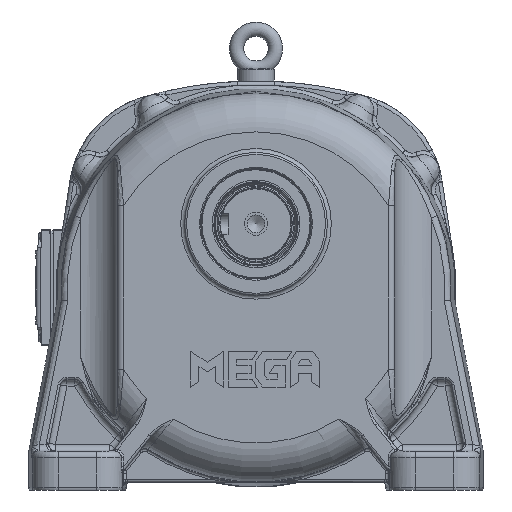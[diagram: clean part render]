
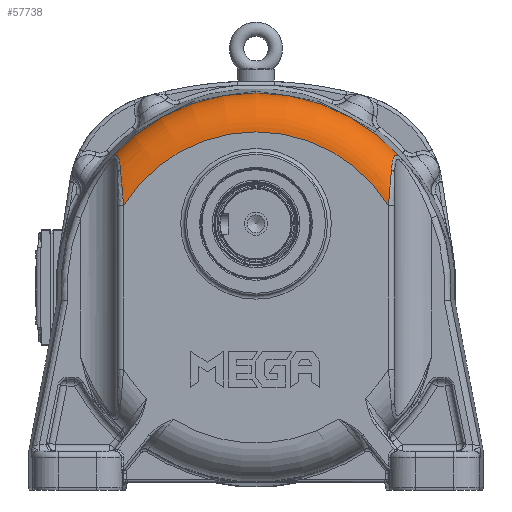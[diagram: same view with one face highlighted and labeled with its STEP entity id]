
A CAD part, front view. The second image highlights one B-rep face of the part: STEP entity #57738.
In plain terms, the highlighted toroidal (fillet/blend) face has major radius 119.862 mm and minor radius 30 mm.
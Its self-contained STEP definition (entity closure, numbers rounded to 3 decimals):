
#3223=B_SPLINE_CURVE_WITH_KNOTS('',3,(#108288,#108289,#108290,#108291,#108292),
 .UNSPECIFIED.,.F.,.F.,(4,1,4),(-2.599,-1.114,0.),
 .UNSPECIFIED.);
#3225=B_SPLINE_CURVE_WITH_KNOTS('',3,(#108346,#108347,#108348,#108349,#108350,
#108351,#108352,#108353,#108354),.UNSPECIFIED.,.F.,.F.,(4,1,1,1,1,1,4),
(-2.566,-2.199,-1.833,-1.466,
-1.1,-0.733,0.),.UNSPECIFIED.);
#3230=B_SPLINE_CURVE_WITH_KNOTS('',3,(#108436,#108437,#108438,#108439,#108440,
#108441,#108442,#108443,#108444),.UNSPECIFIED.,.F.,.F.,(4,1,1,1,1,1,4),
(0.,0.733,1.1,1.466,1.833,
2.199,2.566),.UNSPECIFIED.);
#3231=B_SPLINE_CURVE_WITH_KNOTS('',3,(#108445,#108446,#108447,#108448,#108449),
 .UNSPECIFIED.,.F.,.F.,(4,1,4),(-2.599,-1.114,0.),
 .UNSPECIFIED.);
#12643=FACE_OUTER_BOUND('',#16202,.T.);
#16202=EDGE_LOOP('',(#43228,#43229,#43230,#43231,#43232,#43233));
#19870=CIRCLE('',#62319,119.862);
#20249=CIRCLE('',#62971,149.849);
#24014=VERTEX_POINT('',#101098);
#24015=VERTEX_POINT('',#101100);
#24544=VERTEX_POINT('',#108286);
#24546=VERTEX_POINT('',#108344);
#24548=VERTEX_POINT('',#108433);
#24549=VERTEX_POINT('',#108435);
#30379=EDGE_CURVE('',#24015,#24014,#19870,.T.);
#31258=EDGE_CURVE('',#24544,#24014,#3223,.T.);
#31261=EDGE_CURVE('',#24546,#24544,#3225,.T.);
#31268=EDGE_CURVE('',#24546,#24548,#20249,.T.);
#31269=EDGE_CURVE('',#24549,#24548,#3230,.T.);
#31270=EDGE_CURVE('',#24015,#24549,#3231,.T.);
#43228=ORIENTED_EDGE('',*,*,#31258,.F.);
#43229=ORIENTED_EDGE('',*,*,#31261,.F.);
#43230=ORIENTED_EDGE('',*,*,#31268,.T.);
#43231=ORIENTED_EDGE('',*,*,#31269,.F.);
#43232=ORIENTED_EDGE('',*,*,#31270,.F.);
#43233=ORIENTED_EDGE('',*,*,#30379,.T.);
#52709=TOROIDAL_SURFACE('',#62970,119.862,30.);
#57738=ADVANCED_FACE('',(#12643),#52709,.T.);
#62319=AXIS2_PLACEMENT_3D('',#101101,#72526,#72527);
#62970=AXIS2_PLACEMENT_3D('',#108432,#74076,#74077);
#62971=AXIS2_PLACEMENT_3D('',#108434,#74078,#74079);
#72526=DIRECTION('center_axis',(0.,1.,0.));
#72527=DIRECTION('ref_axis',(-1.,0.,0.));
#74076=DIRECTION('center_axis',(0.,1.,0.));
#74077=DIRECTION('ref_axis',(0.,0.,1.));
#74078=DIRECTION('center_axis',(0.,-1.,0.));
#74079=DIRECTION('ref_axis',(-1.,0.,0.));
#101098=CARTESIAN_POINT('',(89.309,-190.758,61.201));
#101100=CARTESIAN_POINT('',(-114.691,-190.758,61.201));
#101101=CARTESIAN_POINT('Origin',(-12.691,-190.758,-1.75));
#108286=CARTESIAN_POINT('',(91.578,-184.758,88.438));
#108288=CARTESIAN_POINT('Ctrl Pts',(91.578,-184.758,
88.438));
#108289=CARTESIAN_POINT('Ctrl Pts',(91.187,-187.374,
83.558));
#108290=CARTESIAN_POINT('Ctrl Pts',(90.427,-190.123,
74.349));
#108291=CARTESIAN_POINT('Ctrl Pts',(89.641,-190.758,
65.118));
#108292=CARTESIAN_POINT('Ctrl Pts',(89.309,-190.758,
61.201));
#108344=CARTESIAN_POINT('',(99.254,-161.632,97.864));
#108346=CARTESIAN_POINT('Ctrl Pts',(99.254,-161.632,
97.864));
#108347=CARTESIAN_POINT('Ctrl Pts',(98.624,-162.643,
98.528));
#108348=CARTESIAN_POINT('Ctrl Pts',(97.367,-164.843,
99.667));
#108349=CARTESIAN_POINT('Ctrl Pts',(95.583,-168.702,
100.46));
#108350=CARTESIAN_POINT('Ctrl Pts',(94.09,-172.872,
99.901));
#108351=CARTESIAN_POINT('Ctrl Pts',(93.033,-176.753,
98.013));
#108352=CARTESIAN_POINT('Ctrl Pts',(92.117,-181.105,94.326));
#108353=CARTESIAN_POINT('Ctrl Pts',(91.771,-183.466,
90.848));
#108354=CARTESIAN_POINT('Ctrl Pts',(91.578,-184.758,
88.438));
#108432=CARTESIAN_POINT('Origin',(-12.691,-160.758,-1.75));
#108433=CARTESIAN_POINT('',(-124.637,-161.632,97.864));
#108434=CARTESIAN_POINT('Origin',(-12.691,-161.632,-1.75));
#108435=CARTESIAN_POINT('',(-116.96,-184.758,88.438));
#108436=CARTESIAN_POINT('Ctrl Pts',(-116.96,-184.758,
88.438));
#108437=CARTESIAN_POINT('Ctrl Pts',(-117.153,-183.466,
90.848));
#108438=CARTESIAN_POINT('Ctrl Pts',(-117.5,-181.104,
94.328));
#108439=CARTESIAN_POINT('Ctrl Pts',(-118.415,-176.754,
98.013));
#108440=CARTESIAN_POINT('Ctrl Pts',(-119.473,-172.871,
99.902));
#108441=CARTESIAN_POINT('Ctrl Pts',(-120.965,-168.703,
100.46));
#108442=CARTESIAN_POINT('Ctrl Pts',(-122.75,-164.842,
99.667));
#108443=CARTESIAN_POINT('Ctrl Pts',(-124.006,-162.643,
98.528));
#108444=CARTESIAN_POINT('Ctrl Pts',(-124.637,-161.632,
97.864));
#108445=CARTESIAN_POINT('Ctrl Pts',(-114.691,-190.758,
61.201));
#108446=CARTESIAN_POINT('Ctrl Pts',(-115.134,-190.758,
66.424));
#108447=CARTESIAN_POINT('Ctrl Pts',(-115.925,-189.92,
75.713));
#108448=CARTESIAN_POINT('Ctrl Pts',(-116.667,-186.72,
84.778));
#108449=CARTESIAN_POINT('Ctrl Pts',(-116.96,-184.758,
88.438));
